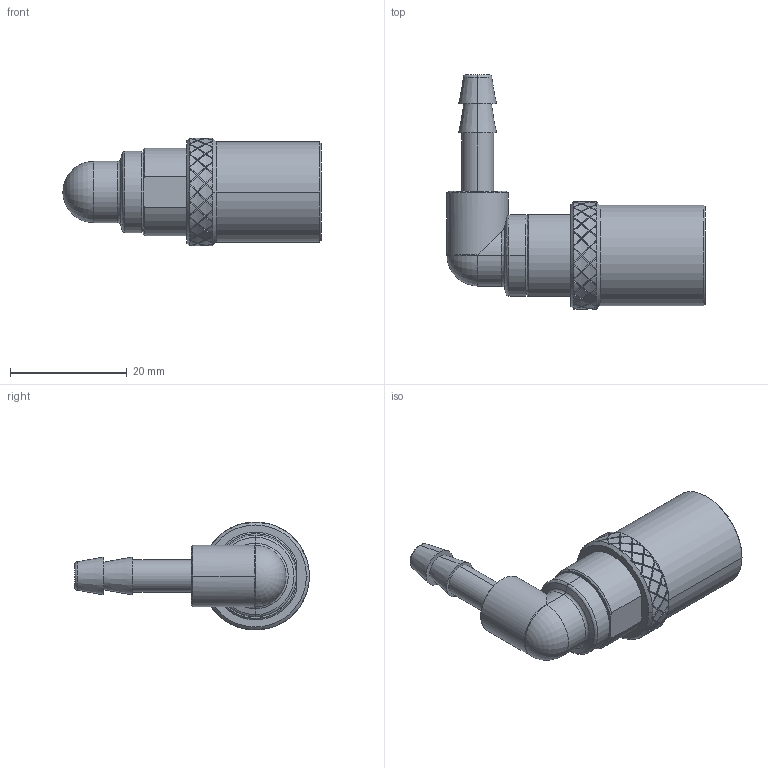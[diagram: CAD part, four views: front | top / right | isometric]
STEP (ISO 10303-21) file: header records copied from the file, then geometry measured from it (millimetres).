
FILE_DESCRIPTION (( 'STEP AP214' ), '1' );
FILE_NAME ('0043600001A.step', '2012-11-19T11:06:14', ( '' ), ( '' ), 'SwSTEP 2.0', 'SolidWorks 2012', '' );
FILE_SCHEMA (( 'AUTOMOTIVE_DESIGN' ));
Length unit declared in the file: millimetre
Products named in the file (1): 0043600001A
Bounding box: 44.25 x 40.25 x 18.5 mm (x, y, z)
Volume: 9174.1 mm3; surface area: 3185 mm2
Topology: 1 solids, 1 shells, 459 faces, 1164 edges, 712 vertices
Faces by surface type: bspline 240, cylinder 100, plane 90, cone 19, torus 10
Entity records: 16606 total; most frequent: CARTESIAN_POINT 7188, ORIENTED_EDGE 2328, EDGE_CURVE 1164, DIRECTION 1096, B_SPLINE_CURVE_WITH_KNOTS 812, VERTEX_POINT 712, AXIS2_PLACEMENT_3D 528, EDGE_LOOP 464
